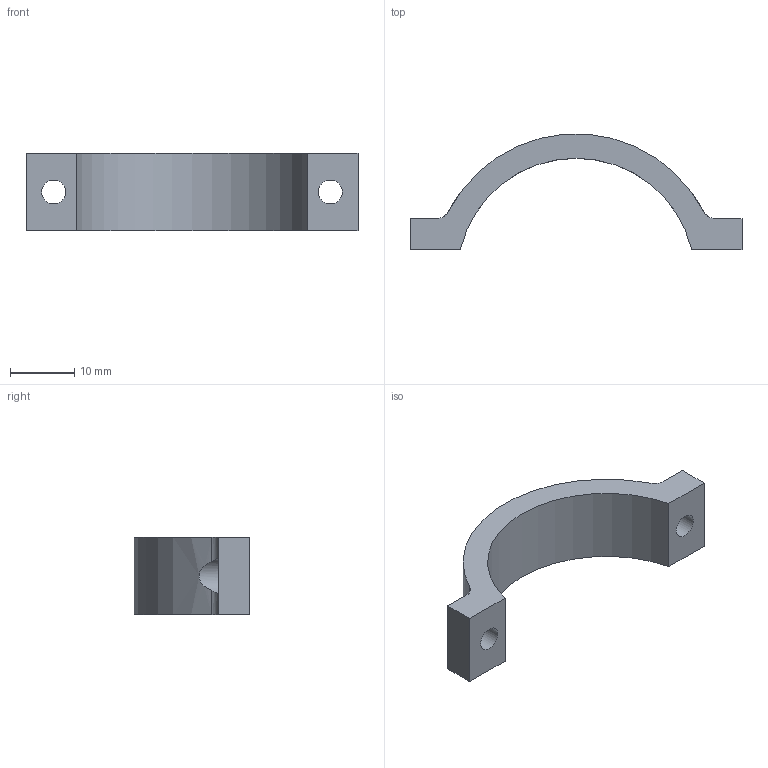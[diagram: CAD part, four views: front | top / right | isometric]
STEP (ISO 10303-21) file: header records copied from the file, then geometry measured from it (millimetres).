
FILE_DESCRIPTION(/* description */ (''),/* implementation_level */ '2;1');
FILE_NAME(/* name */ 'D:\FIRST\FTC KOP 2017\FTC 2017 KOP\Tetrix STEP\Miscellaneous\Tetrix_39376_Clamp.ipt.step',/* time_stamp */ '2017-01-03T09:05:38-08:00',/* author */ ('Autodesk Inc.'),/* organization */ ('Autodesk Inc.'),/* preprocessor_version */ 'ST-DEVELOPER v16.5',/* originating_system */ 'Autodesk Inventor 2017',/* authorisation */ '');
FILE_SCHEMA (('AUTOMOTIVE_DESIGN { 1 0 10303 214 3 1 1 }'));
Length unit declared in the file: inch
Products named in the file (1): Tetrix_739376_Clamp
Bounding box: 51.61 x 17.94 x 12 mm (x, y, z)
Volume: 2949 mm3; surface area: 2234 mm2
Topology: 1 solids, 1 shells, 18 faces, 49 edges, 33 vertices
Faces by surface type: cylinder 10, plane 8
Full cylindrical faces by diameter (mm): 3.7 x2
Entity records: 655 total; most frequent: CARTESIAN_POINT 168, ORIENTED_EDGE 92, DIRECTION 92, EDGE_CURVE 46, AXIS2_PLACEMENT_3D 33, VERTEX_POINT 32, LINE 26, VECTOR 26
